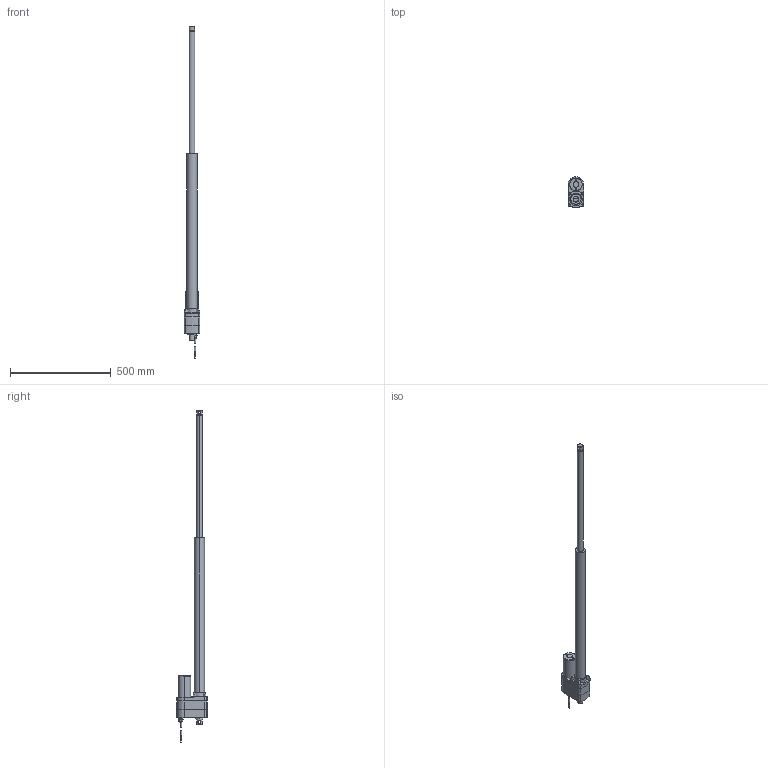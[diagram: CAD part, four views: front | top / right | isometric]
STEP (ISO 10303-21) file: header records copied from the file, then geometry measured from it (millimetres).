
FILE_DESCRIPTION (( 'STEP AP203' ), '1' );
FILE_NAME ('LA10_BALL_24_POTx.step', '2021-02-24T15:37:04', ( '' ), ( '' ), 'SwSTEP 2.0', 'SolidWorks 2017', '' );
FILE_SCHEMA (( 'CONFIG_CONTROL_DESIGN' ));
Length unit declared in the file: millimetre
Products named in the file (1): LA10_BALL_24_POTx
Bounding box: 77.22 x 151.29 x 1645.37 mm (x, y, z)
Volume: 3476943 mm3; surface area: 339515.5 mm2
Topology: 14 solids, 14 shells, 345 faces, 740 edges, 460 vertices
Faces by surface type: plane 162, cylinder 115, cone 24, bspline 22, torus 18, sphere 4
Entity records: 11368 total; most frequent: CARTESIAN_POINT 3734, DIRECTION 1643, ORIENTED_EDGE 1480, EDGE_CURVE 740, AXIS2_PLACEMENT_3D 649, VERTEX_POINT 460, EDGE_LOOP 390, VECTOR 345
